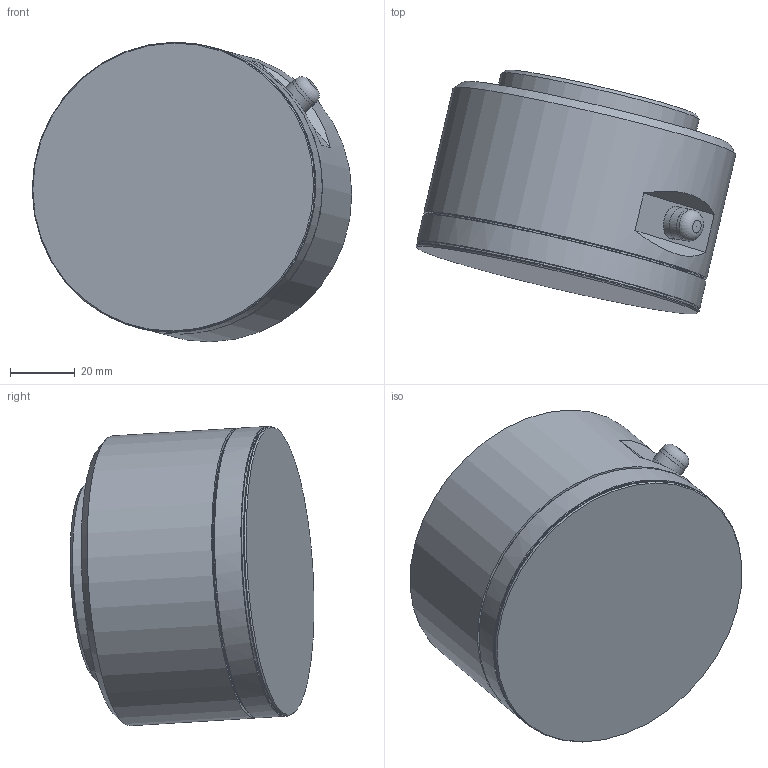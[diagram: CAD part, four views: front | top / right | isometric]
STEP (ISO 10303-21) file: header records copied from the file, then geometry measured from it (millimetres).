
FILE_DESCRIPTION(/* description */ ('STEP AP242 Edition 2','CAx-IF Rec.Pracs.---Representation and Presentation of Product Manufacturing Information (PMI)---4.0---2014-10-13','CAx-IF Rec.Pracs.---3D Tessellated Geometry---0.4---2014-09-14','2;1','CAx-IF Rec.Pracs.---User Defined Attributes---1.5---2016-08-15'),/* implementation_level */ '2;1');
FILE_NAME(/* name */ 'Assembly 1 - Link_6__Imported1',/* time_stamp */ '2026-08-25T12:55:28Z',/* author */ (''),/* organization */ (''),/* preprocessor_version */ 'ST-DEVELOPER v20',/* originating_system */ 'ONSHAPE BY PTC INC, 1.219',/* authorisation */ ' ');
FILE_SCHEMA (('AP242_MANAGED_MODEL_BASED_3D_ENGINEERING_MIM_LF { 1 0 10303 442 3 1 4 }'));
Length unit declared in the file: metre
Products named in the file (1): Link_6__Imported1
Bounding box: 99.04 x 75.57 x 92.82 mm (x, y, z)
Volume: 350536.9 mm3; surface area: 31479.8 mm2
Topology: 1 solids, 1 shells, 74 faces, 162 edges, 109 vertices
Faces by surface type: cylinder 25, plane 24, cone 18, torus 7
Full cylindrical faces by diameter (mm): 5 x4, 6 x1, 6.25 x8, 9.8 x2, 9.82 x1, 10.2 x1, 31.5 x1, 63 x1, 87.9 x1, 88.195 x2, 90 x3
Entity records: 2171 total; most frequent: CARTESIAN_POINT 565, DIRECTION 272, ORIENTED_EDGE 198, FACE_BOUND 146, EDGE_LOOP 144, AXIS2_PLACEMENT_3D 134, EDGE_CURVE 99, VERTEX_POINT 99
